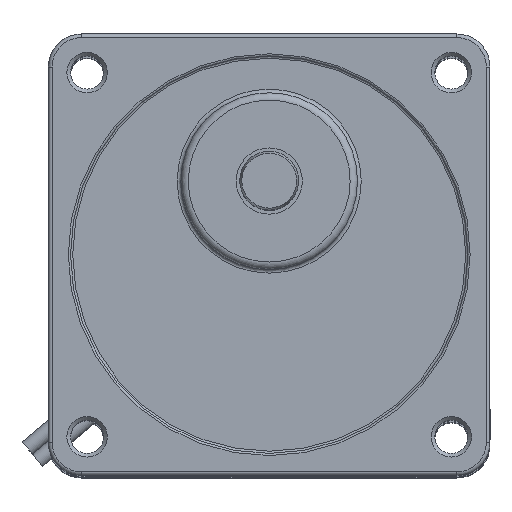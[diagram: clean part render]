
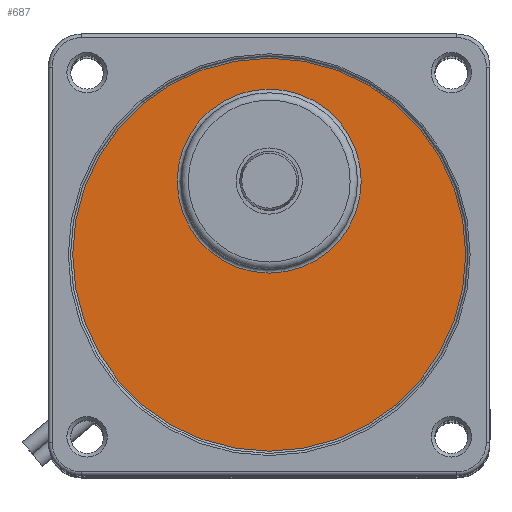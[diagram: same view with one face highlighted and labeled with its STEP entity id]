
A CAD part, top view. The second image highlights one B-rep face of the part: STEP entity #687.
In plain terms, the highlighted planar face has unit normal (0, 0, 1).
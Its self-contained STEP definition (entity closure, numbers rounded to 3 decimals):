
#636=CARTESIAN_POINT('',(47.5,70.,169.7));
#637=VERTEX_POINT('',#636);
#638=CARTESIAN_POINT('',(60.,70.,169.7));
#639=DIRECTION('',(0.0,0.0,1.0));
#640=DIRECTION('',(1.0,0.0,0.0));
#641=AXIS2_PLACEMENT_3D('',#638,#639,#640);
#642=CIRCLE('',#641,12.5);
#643=EDGE_CURVE('',#637,#637,#642,.T.);
#668=CARTESIAN_POINT('',(60.,60.,169.7));
#669=DIRECTION('',(0.0,0.0,-1.0));
#670=DIRECTION('',(1.0,0.0,0.0));
#671=AXIS2_PLACEMENT_3D('',#668,#669,#670);
#672=PLANE('',#671);
#673=CARTESIAN_POINT('',(33.301,60.,169.7));
#674=VERTEX_POINT('',#673);
#675=CARTESIAN_POINT('',(60.,60.,169.7));
#676=DIRECTION('',(0.0,0.0,-1.0));
#677=DIRECTION('',(1.0,0.0,0.0));
#678=AXIS2_PLACEMENT_3D('',#675,#676,#677);
#679=CIRCLE('',#678,26.699);
#680=EDGE_CURVE('',#674,#674,#679,.T.);
#681=ORIENTED_EDGE('',*,*,#680,.F.);
#682=EDGE_LOOP('',(#681));
#683=FACE_OUTER_BOUND('',#682,.T.);
#684=ORIENTED_EDGE('',*,*,#643,.F.);
#685=EDGE_LOOP('',(#684));
#686=FACE_BOUND('',#685,.T.);
#687=ADVANCED_FACE('',(#683,#686),#672,.F.);
